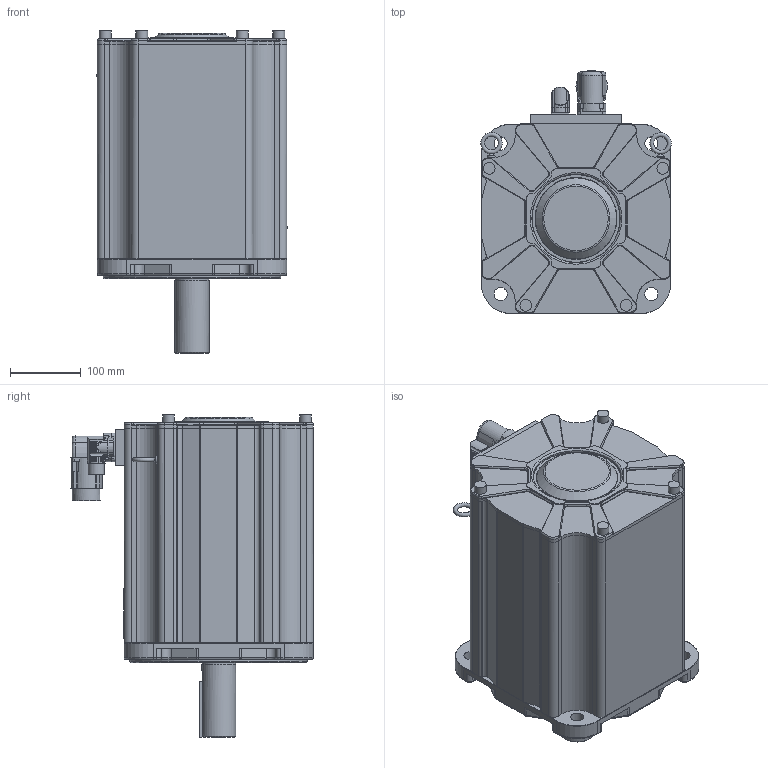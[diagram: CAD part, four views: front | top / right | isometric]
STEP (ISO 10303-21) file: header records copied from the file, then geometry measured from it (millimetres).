
FILE_DESCRIPTION((''),'2;1');
FILE_NAME('C:\CAD_work\Dummy_Modeling_Project_02-12-05\3D MODELS\MPP2708XXX_NPSN.stp','2006-02-03T10:44:13',('jevans'),(''),'Autodesk Inventor 10','Autodesk Inventor 10','');
FILE_SCHEMA(('AUTOMOTIVE_DESIGN { 1 0 10303 214 1 1 1 1 }'));
Length unit declared in the file: inch
Products named in the file (1): MPP270_MOTOR
Bounding box: 268.73 x 341.91 x 454.2 mm (x, y, z)
Volume: 20802097 mm3; surface area: 623593.4 mm2
Topology: 1 solids, 8 shells, 961 faces, 2362 edges, 1475 vertices
Faces by surface type: cylinder 404, plane 347, bspline 129, torus 65, cone 16
Full cylindrical faces by diameter (mm): 1.016 x17, 2 x2, 3.6 x4, 16.662 x4, 19.05 x1, 19.685 x1, 22.86 x1, 32.639 x1, 39.624 x1, 47.663 x1, 48.019 x1, 51.892 x1, 69.85 x1, 72.023 x1, 88.9 x1, 106.68 x1, 119.99 x1, 120 x1, 120.018 x1, 120.272 x2, 124.46 x1, 133.349 x1, 133.35 x1, 250.001 x1
Entity records: 32172 total; most frequent: CARTESIAN_POINT 10100, DIRECTION 4687, ORIENTED_EDGE 4484, EDGE_CURVE 2242, AXIS2_PLACEMENT_3D 1825, VERTEX_POINT 1440, EDGE_LOOP 1116, VECTOR 1037
